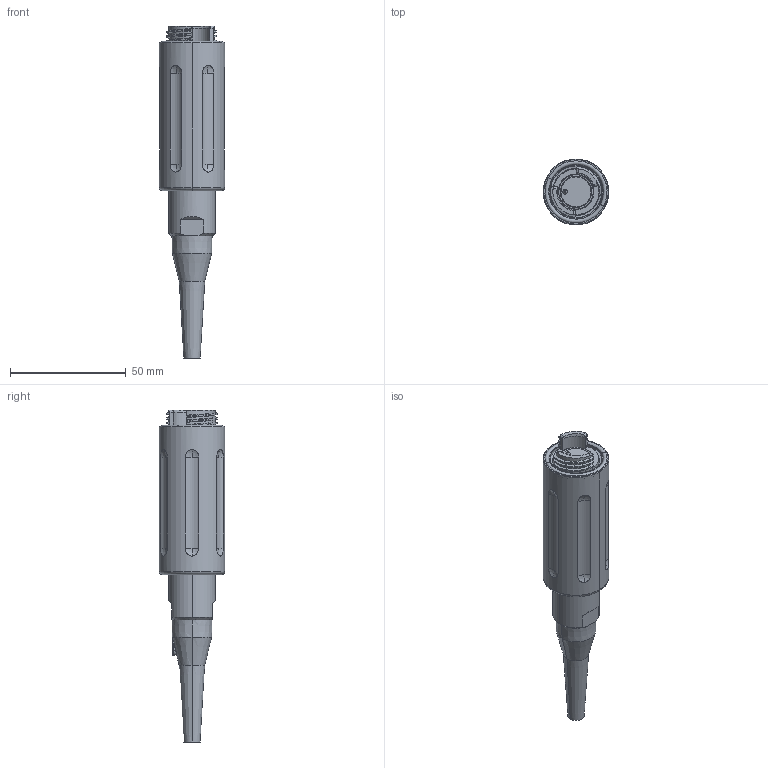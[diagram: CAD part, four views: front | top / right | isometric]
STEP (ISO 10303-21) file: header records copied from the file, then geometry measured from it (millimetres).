
FILE_DESCRIPTION (( 'STEP AP214' ), '1' );
FILE_NAME ('QMINI-PEXX-XXXX-SXX.STEP', '2025-05-20T23:41:38', ( '' ), ( '' ), 'SwSTEP 2.0', 'SolidWorks 2024', '' );
FILE_SCHEMA (( 'AUTOMOTIVE_DESIGN' ));
Length unit declared in the file: inch
Products named in the file (1): QMINI-PEXX-XXXX-SXX
Bounding box: 28.35 x 28.35 x 143.2 mm (x, y, z)
Volume: 54912.9 mm3; surface area: 21576.7 mm2
Topology: 2 solids, 3 shells, 337 faces, 868 edges, 550 vertices
Faces by surface type: cylinder 107, plane 75, cone 72, bspline 32, torus 27, sphere 24
Entity records: 14556 total; most frequent: CARTESIAN_POINT 6860, ORIENTED_EDGE 1720, DIRECTION 1491, EDGE_CURVE 860, AXIS2_PLACEMENT_3D 603, VERTEX_POINT 550, EDGE_LOOP 366, FACE_OUTER_BOUND 337
